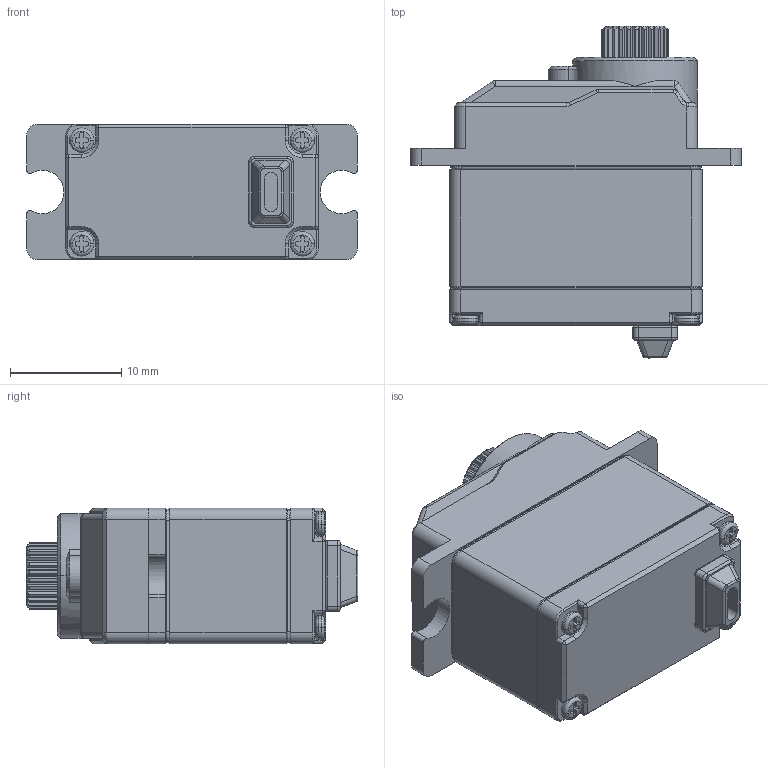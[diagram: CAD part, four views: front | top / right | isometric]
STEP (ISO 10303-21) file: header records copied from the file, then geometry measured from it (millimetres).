
FILE_DESCRIPTION((''),'2;1');
FILE_NAME('RS40DM','2024-04-01T',('扂'),(''),'PRO/ENGINEER BY PARAMETRIC TECHNOLOGY CORPORATION, 2010280','PRO/ENGINEER BY PARAMETRIC TECHNOLOGY CORPORATION, 2010280','');
FILE_SCHEMA(('CONFIG_CONTROL_DESIGN'));
Length unit declared in the file: millimetre
Products named in the file (1): DDJ-A19
Bounding box: 29.7 x 29.8 x 12.2 mm (x, y, z)
Volume: 6262.4 mm3; surface area: 2737 mm2
Topology: 1 solids, 1 shells, 602 faces, 1570 edges, 985 vertices
Faces by surface type: cylinder 248, plane 226, cone 62, torus 24, revolution 24, bspline 14, sphere 4
Entity records: 22061 total; most frequent: CARTESIAN_POINT 7365, ORIENTED_EDGE 3120, DIRECTION 3025, EDGE_CURVE 1560, AXIS2_PLACEMENT_3D 1103, VERTEX_POINT 985, VECTOR 795, LINE 795
